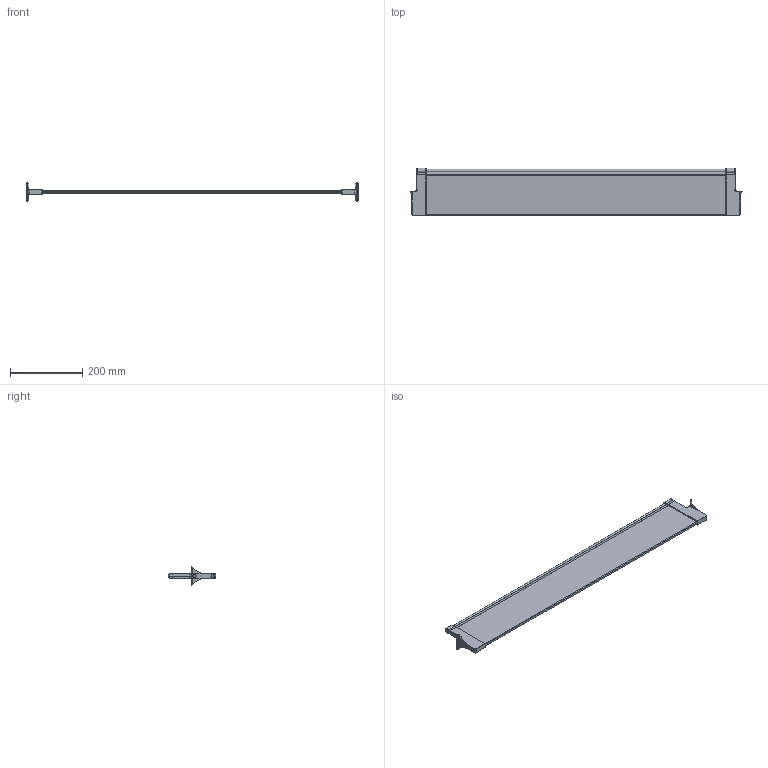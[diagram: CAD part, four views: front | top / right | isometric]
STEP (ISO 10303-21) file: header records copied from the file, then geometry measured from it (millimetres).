
FILE_DESCRIPTION (( 'STEP AP214' ), '1' );
FILE_NAME ('Nova-Pro P622 Querteiler H90Nova PRO Querteiler_H90_KAB 1000_16.step', '2009-11-06T06:59:39', ( 'Waldinger Reinhard' ), ( 'Grass GmbH' ), 'SwSTEP 2.0', 'SolidWorks 2009', '' );
FILE_SCHEMA (( 'AUTOMOTIVE_DESIGN' ));
Length unit declared in the file: millimetre
Products named in the file (1): Nova-Pro P622 Querteiler H90Nova PRO Querteiler_H90_KAB 1000_16
Bounding box: 918.1 x 132 x 49.97 mm (x, y, z)
Volume: 955947.2 mm3; surface area: 248812.8 mm2
Topology: 1 solids, 1 shells, 248 faces, 578 edges, 334 vertices
Faces by surface type: cylinder 107, bspline 64, plane 51, torus 12, sphere 12, cone 2
Entity records: 11002 total; most frequent: CARTESIAN_POINT 5879, ORIENTED_EDGE 1148, DIRECTION 966, EDGE_CURVE 574, AXIS2_PLACEMENT_3D 369, VERTEX_POINT 334, EDGE_LOOP 254, FACE_OUTER_BOUND 248
